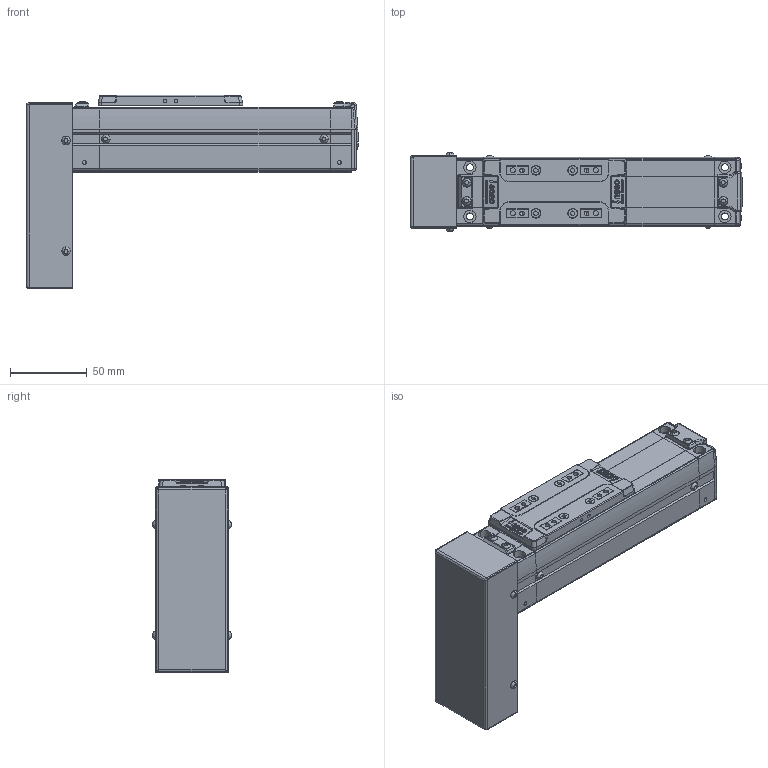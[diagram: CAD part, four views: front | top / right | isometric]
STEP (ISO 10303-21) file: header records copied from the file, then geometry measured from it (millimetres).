
FILE_DESCRIPTION(('STEP AP214'),'1');
FILE_NAME('Z:/Web/3D/SAN45/2013.ver/STP/SAN45-50PB.stp','2013-05-14T23:43:43',(' '),(' '),'Spatial InterOp 3D',' ',' ');
FILE_SCHEMA(('automotive_design'));
Length unit declared in the file: millimetre
Products named in the file (28): BODY-SAN45; REAR-SAN45; RRCV-SAN45; BHCS M3 x 6L; BHCS M3 X 6L; FRONT-SAN45; SHAFT; RN8 x 0.75; SSFX-SAN45; SLIDE-SAN45; SLCV-IM45; FHCS M3 x 6L; BTCV-SAN45
Bounding box: 216.15 x 51.13 x 126 mm (x, y, z)
Volume: 506157.3 mm3; surface area: 101979.5 mm2
Topology: 28 solids, 28 shells, 1680 faces, 4367 edges, 2828 vertices
Faces by surface type: plane 887, cylinder 583, cone 112, bspline 40, sphere 40, torus 12, extrusion 6
Entity records: 69397 total; most frequent: CARTESIAN_POINT 13269, DIRECTION 9084, ORIENTED_EDGE 8662, EDGE_CURVE 4331, AXIS2_PLACEMENT_3D 3192, VERTEX_POINT 2828, VECTOR 2700, LINE 2694
